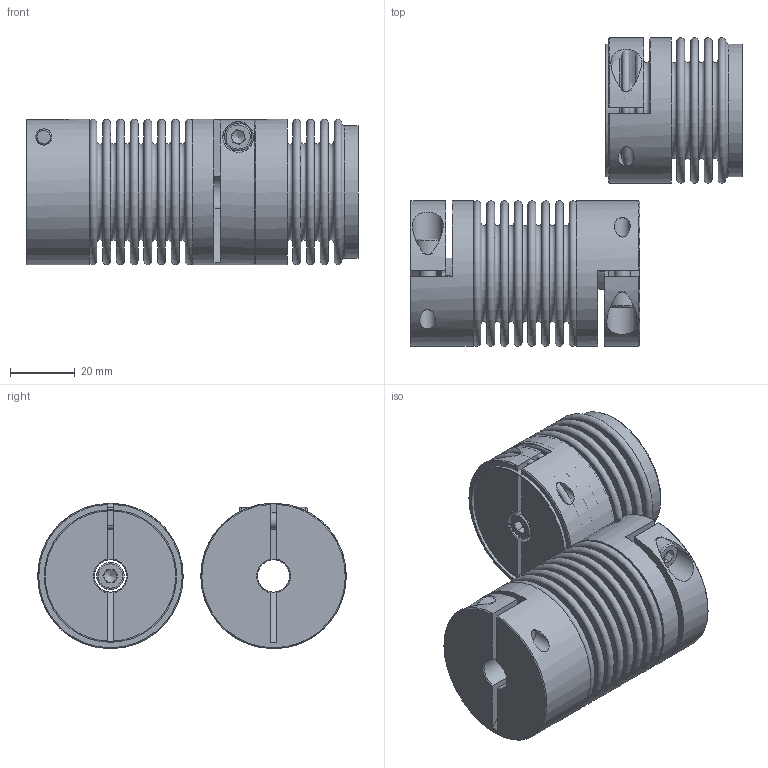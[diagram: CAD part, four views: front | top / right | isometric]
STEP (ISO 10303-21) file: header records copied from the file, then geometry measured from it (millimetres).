
FILE_DESCRIPTION( ( 'Unknown' ), '1' );
FILE_NAME( 'C:/Dokumente und Einstellungen/Sven/Desktop/cad - homepage/KB4/KB4-18-71.stp', 'Unknown', ( 'Unknown' ), ( 'Unknown' ), 'XStep 1.0', 'Unknown', ' ' );
FILE_SCHEMA( ( 'automotive_design' ) );
Length unit declared in the file: millimetre
Products named in the file (4): Assem1; KN18_Standard_0; Socket Head Cap Screw_DIN_DIN 912 M5 x 16 --- 16N_0; BL18_Standard
Bounding box: 102.75 x 95.48 x 45 mm (x, y, z)
Volume: 91012 mm3; surface area: 93402.8 mm2
Topology: 8 solids, 8 shells, 262 faces, 513 edges, 330 vertices
Faces by surface type: plane 136, torus 73, cylinder 35, cone 15, bspline 3
Full cylindrical faces by diameter (mm): 5 x9, 8.5 x3, 10 x3, 40.4 x4, 41 x4, 45 x3
Entity records: 3381 total; most frequent: CARTESIAN_POINT 1055, DIRECTION 473, ORIENTED_EDGE 308, AXIS2_PLACEMENT_3D 217, EDGE_LOOP 195, FACE_OUTER_BOUND 154, EDGE_CURVE 154, VERTEX_POINT 128
